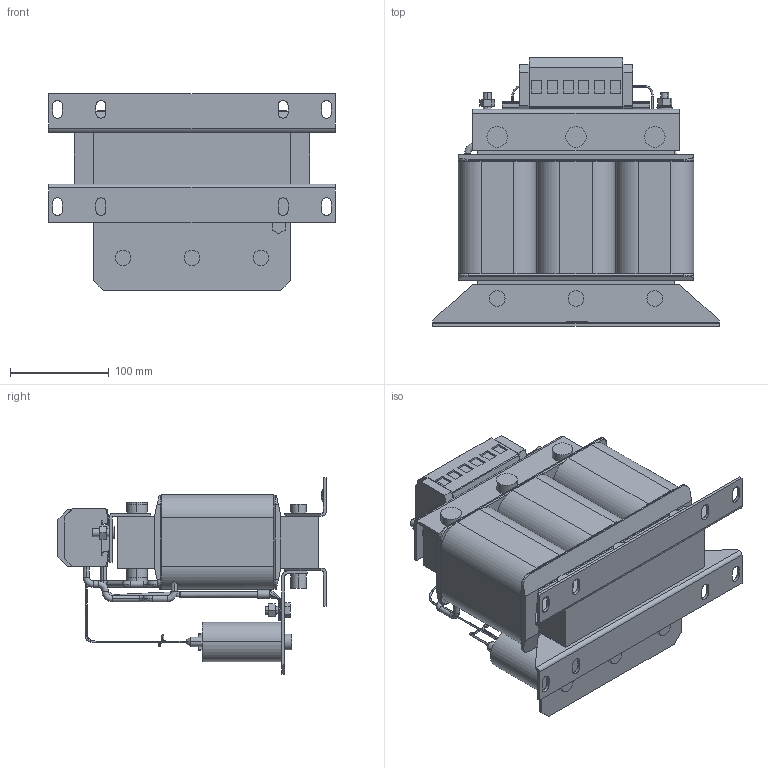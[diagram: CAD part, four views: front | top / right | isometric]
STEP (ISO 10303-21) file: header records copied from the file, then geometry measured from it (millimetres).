
FILE_DESCRIPTION (( 'STEP AP214' ), '1' );
FILE_NAME ('00Z1GX4-0017.STEP', '2022-11-16T10:06:07', ( '' ), ( '' ), 'SwSTEP 2.0', 'SolidWorks 2022', '' );
FILE_SCHEMA (( 'AUTOMOTIVE_DESIGN' ));
Length unit declared in the file: centimetre
Products named in the file (1): 00Z1GX4-0017
Bounding box: 291 x 272.4 x 199.8 mm (x, y, z)
Volume: 4479224.7 mm3; surface area: 429112.9 mm2
Topology: 1 solids, 1 shells, 802 faces, 2051 edges, 1309 vertices
Faces by surface type: plane 362, cylinder 287, torus 100, bspline 41, cone 12
Entity records: 29075 total; most frequent: CARTESIAN_POINT 9080, DIRECTION 4194, ORIENTED_EDGE 4102, EDGE_CURVE 2051, AXIS2_PLACEMENT_3D 1569, VERTEX_POINT 1309, VECTOR 1056, LINE 1056
